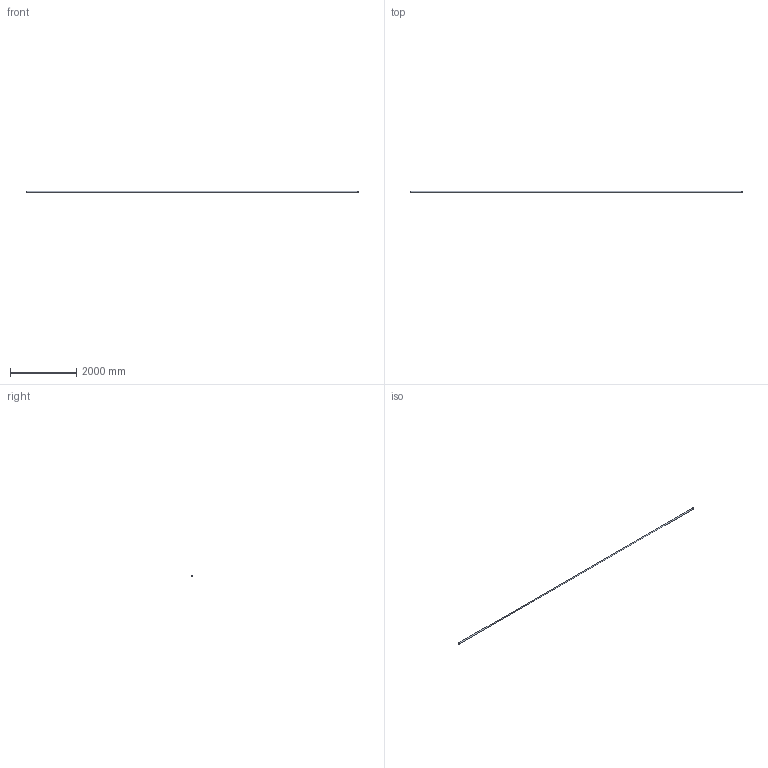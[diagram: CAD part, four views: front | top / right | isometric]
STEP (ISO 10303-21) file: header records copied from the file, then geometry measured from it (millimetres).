
FILE_DESCRIPTION(('FreeCAD Model'),'2;1');
FILE_NAME('Open CASCADE Shape Model','2026-10-12T23:06:14',('Author'),( ''),'Open CASCADE STEP processor 7.8','FreeCAD','Unknown');
FILE_SCHEMA(('AUTOMOTIVE_DESIGN { 1 0 10303 214 1 1 1 1 }'));
Length unit declared in the file: millimetre
Products named in the file (4): noodles; Rope_bucatini_10m; EndCap_Start; EndCap_End
Assembly tree (3 placements, depth 2):
  noodles
    Rope_bucatini_10m
    EndCap_Start
    EndCap_End
Bounding box: 10056 x 41.55 x 41.51 mm (x, y, z)
Volume: 12642484.6 mm3; surface area: 1271905.7 mm2
Topology: 3 solids, 3 shells, 9 faces, 9 edges, 6 vertices
Faces by surface type: plane 6, cylinder 3
Full cylindrical faces by diameter (mm): 40 x1, 41.6 x2
Entity records: 229 total; most frequent: DIRECTION 41, CARTESIAN_POINT 28, AXIS2_PLACEMENT_3D 19, ORIENTED_EDGE 18, ADVANCED_FACE 9, FACE_BOUND 9, EDGE_LOOP 9, EDGE_CURVE 9
